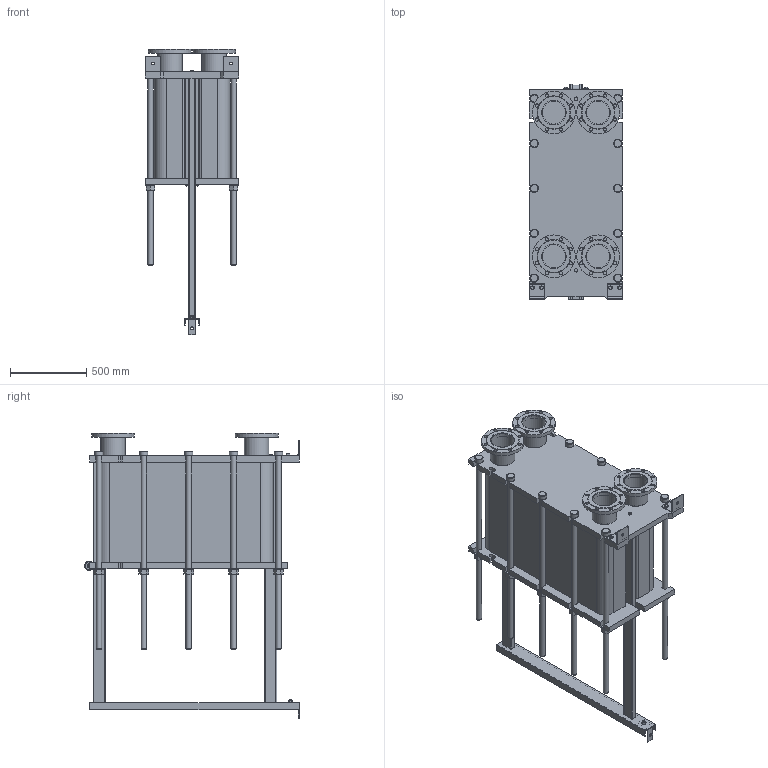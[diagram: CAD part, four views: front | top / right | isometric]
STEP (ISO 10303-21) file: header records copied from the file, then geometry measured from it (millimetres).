
FILE_DESCRIPTION(/* description */ (''),/* implementation_level */ '2;1');
FILE_NAME(/* name */ 'C:\Users\zhuro\Desktop\ENCO\TO\ЭН-041\ЭН-0,5-041-191-1.stp',/* time_stamp */ '2022-06-06T11:05:48+03:00',/* author */ ('zhuro'),/* organization */ (''),/* preprocessor_version */ 'ST-DEVELOPER v18.1',/* originating_system */ 'Autodesk Inventor 2022',/* authorisation */ '');
FILE_SCHEMA (('AUTOMOTIVE_DESIGN { 1 0 10303 214 3 1 1 }'));
Length unit declared in the file: millimetre
Products named in the file (1): ЭН-0,5-041-191-1
Bounding box: 610 x 1406.5 x 1872.5 mm (x, y, z)
Volume: 457485999.6 mm3; surface area: 11030986.5 mm2
Topology: 52 solids, 52 shells, 711 faces, 1696 edges, 1094 vertices
Faces by surface type: plane 487, cylinder 177, cone 41, torus 6
Full cylindrical faces by diameter (mm): 8 x4, 10 x2, 16 x8, 18 x3, 22 x32, 36 x24, 50 x1, 54 x10, 60 x12, 151 x4, 161 x8, 280 x4
Entity records: 22667 total; most frequent: CARTESIAN_POINT 5230, DIRECTION 3644, ORIENTED_EDGE 3392, EDGE_CURVE 1696, AXIS2_PLACEMENT_3D 1272, LINE 1100, VECTOR 1100, VERTEX_POINT 1094
